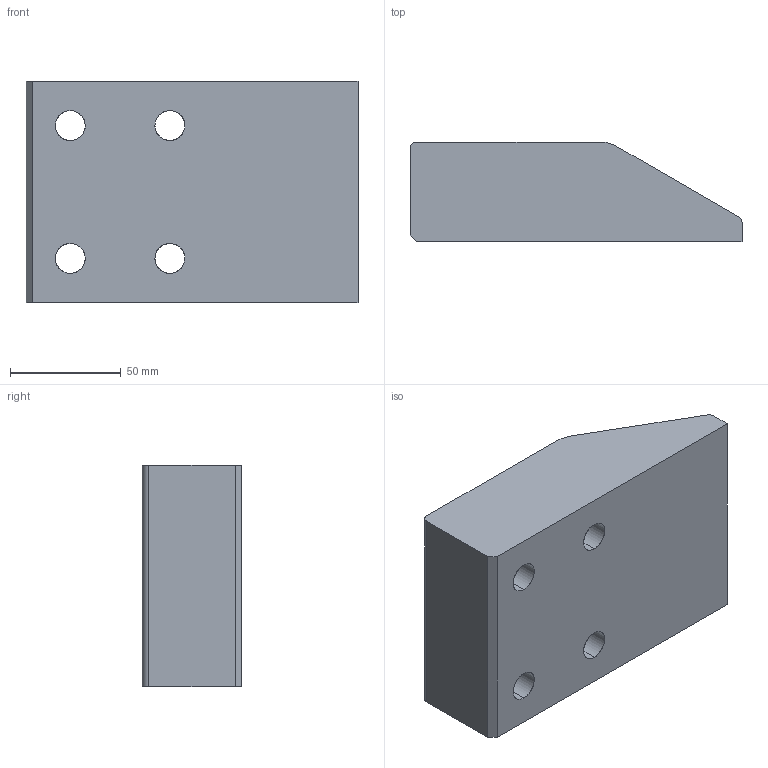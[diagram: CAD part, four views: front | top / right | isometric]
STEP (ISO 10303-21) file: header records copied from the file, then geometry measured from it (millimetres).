
FILE_DESCRIPTION(('CATIA V5 STEP Exchange'),'2;1');
FILE_NAME('C:\Users\Utente\Desktop\3D files A934\A934-10015045.stp','2020-04-17T08:28:13+00:00',('none'),('none'),'CATIA Version 5 Release 20 GA (IN-10)','CATIA V5 STEP AP203','none');
FILE_SCHEMA(('CONFIG_CONTROL_DESIGN'));
Length unit declared in the file: millimetre
Products named in the file (1): Noname
Bounding box: 150 x 45 x 100 mm (x, y, z)
Surface area: 56145.7 mm2 (no closed solid volume)
Topology: 0 solids, 27 shells, 39 faces, 158 edges, 134 vertices
Faces by surface type: cylinder 19, extrusion 12, revolution 8
Entity records: 2132 total; most frequent: CARTESIAN_POINT 870, ORIENTED_EDGE 182, DIRECTION 174, EDGE_CURVE 158, VERTEX_POINT 134, AXIS2_PLACEMENT_3D 82, VECTOR 66, B_SPLINE_CURVE_WITH_KNOTS 62
